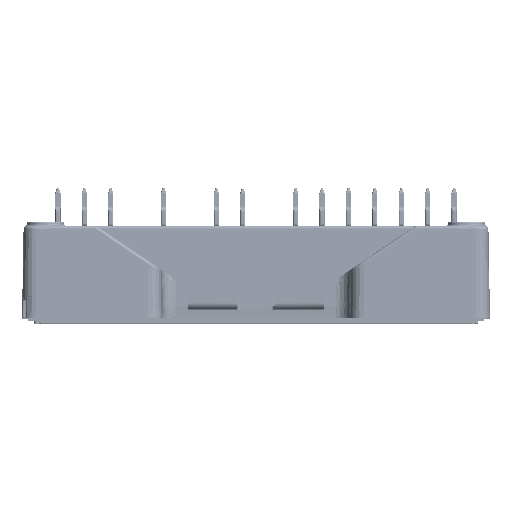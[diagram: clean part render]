
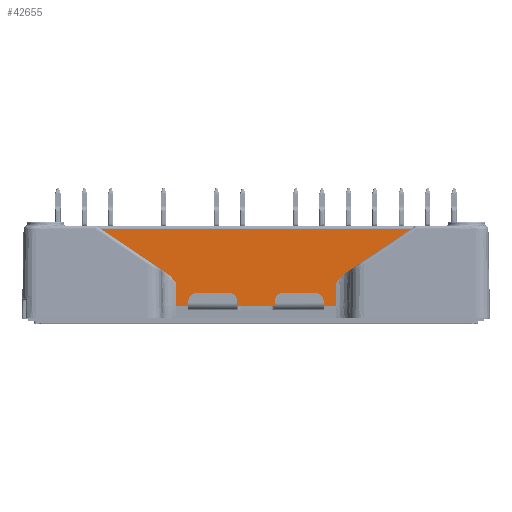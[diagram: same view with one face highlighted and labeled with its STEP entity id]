
A CAD part, top view. The second image highlights one B-rep face of the part: STEP entity #42655.
In plain terms, the highlighted planar face has unit normal (0, 0.018, 1).
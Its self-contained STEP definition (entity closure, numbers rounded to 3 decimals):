
#1382 = VERTEX_POINT ( 'NONE', #117364 ) ;
#4895 = LINE ( 'NONE', #63635, #51766 ) ;
#13503 = DIRECTION ( 'NONE',  ( -1., 0., 0. ) ) ;
#13664 = CARTESIAN_POINT ( 'NONE',  ( -10.129, 5.456, 20.416 ) ) ;
#14374 = CARTESIAN_POINT ( 'NONE',  ( 10.11, 5.432, 20.416 ) ) ;
#14709 = DIRECTION ( 'NONE',  ( 0., 0.017, 1. ) ) ;
#15096 = VERTEX_POINT ( 'NONE', #146085 ) ;
#17450 = CARTESIAN_POINT ( 'NONE',  ( -18.767, 11.437, 20.311 ) ) ;
#19825 = CARTESIAN_POINT ( 'NONE',  ( -18.767, 11.437, 20.311 ) ) ;
#21517 = ORIENTED_EDGE ( 'NONE', *, *, #70705, .T. ) ;
#24234 = CARTESIAN_POINT ( 'NONE',  ( 18.767, 11.437, 20.311 ) ) ;
#24279 = CARTESIAN_POINT ( 'NONE',  ( -10.288, 5.639, 20.413 ) ) ;
#24987 = CARTESIAN_POINT ( 'NONE',  ( 9.65, 4.812, 20.427 ) ) ;
#25622 = VECTOR ( 'NONE', #13503, 1000. ) ;
#28775 = DIRECTION ( 'NONE',  ( 1., 0., 0. ) ) ;
#28786 = CARTESIAN_POINT ( 'NONE',  ( 10.105, 5.426, 20.416 ) ) ;
#38474 = DIRECTION ( 'NONE',  ( 0., 1., -0.017 ) ) ;
#40630 = CARTESIAN_POINT ( 'NONE',  ( -10.455, 5.81, 20.41 ) ) ;
#40992 = CARTESIAN_POINT ( 'NONE',  ( -11.35, 2.05, 20.475 ) ) ;
#41138 = VERTEX_POINT ( 'NONE', #188816 ) ;
#42655 = ADVANCED_FACE ( 'NONE', ( #162206 ), #118777, .T. ) ;
#42774 = AXIS2_PLACEMENT_3D ( 'NONE', #190178, #14709, #72502 ) ;
#43650 = EDGE_CURVE ( 'NONE', #1382, #103298, #95992, .T. ) ;
#46899 = ORIENTED_EDGE ( 'NONE', *, *, #56275, .T. ) ;
#48021 = CARTESIAN_POINT ( 'NONE',  ( -10.679, 5.981, 20.407 ) ) ;
#48386 = CARTESIAN_POINT ( 'NONE',  ( -9.65, 499000., -8689.566 ) ) ;
#51037 = VERTEX_POINT ( 'NONE', #24234 ) ;
#51766 = VECTOR ( 'NONE', #38474, 1000. ) ;
#52273 = CARTESIAN_POINT ( 'NONE',  ( -10.679, 5.981, 20.407 ) ) ;
#56275 = EDGE_CURVE ( 'NONE', #51037, #74429, #153346, .T. ) ;
#58184 = ORIENTED_EDGE ( 'NONE', *, *, #43650, .T. ) ;
#59616 = CARTESIAN_POINT ( 'NONE',  ( -11.35, 2.05, 20.475 ) ) ;
#59844 = VERTEX_POINT ( 'NONE', #77705 ) ;
#61565 = EDGE_CURVE ( 'NONE', #89018, #126013, #136141, .T. ) ;
#63635 = CARTESIAN_POINT ( 'NONE',  ( 9.65, 499000., -8689.566 ) ) ;
#69292 = CARTESIAN_POINT ( 'NONE',  ( 10.113, 5.437, 20.416 ) ) ;
#70705 = EDGE_CURVE ( 'NONE', #15096, #1382, #105828, .T. ) ;
#72502 = DIRECTION ( 'NONE',  ( 1., 0., 0. ) ) ;
#73277 = LINE ( 'NONE', #120502, #105490 ) ;
#73647 = EDGE_CURVE ( 'NONE', #175593, #89018, #188877, .T. ) ;
#74429 = VERTEX_POINT ( 'NONE', #19825 ) ;
#77705 = CARTESIAN_POINT ( 'NONE',  ( 9.65, 4.812, 20.427 ) ) ;
#80025 = ORIENTED_EDGE ( 'NONE', *, *, #73647, .T. ) ;
#83765 = CARTESIAN_POINT ( 'NONE',  ( 10.092, 5.41, 20.417 ) ) ;
#84971 = CARTESIAN_POINT ( 'NONE',  ( -10.591, 5.922, 20.408 ) ) ;
#85666 = CARTESIAN_POINT ( 'NONE',  ( 10.01, 5.306, 20.418 ) ) ;
#85825 = EDGE_CURVE ( 'NONE', #126013, #15096, #88512, .T. ) ;
#86644 = VECTOR ( 'NONE', #91333, 1000. ) ;
#87590 = CARTESIAN_POINT ( 'NONE',  ( 10.114, 5.437, 20.416 ) ) ;
#88296 = EDGE_LOOP ( 'NONE', ( #181126, #80025, #98456, #174996, #21517, #58184, #168279, #148804, #130315, #46899 ) ) ;
#88512 = LINE ( 'NONE', #59616, #101647 ) ;
#89018 = VERTEX_POINT ( 'NONE', #166049 ) ;
#89252 = EDGE_CURVE ( 'NONE', #41138, #51037, #73277, .T. ) ;
#90659 = LINE ( 'NONE', #17450, #121855 ) ;
#91333 = DIRECTION ( 'NONE',  ( 1., 0., 0. ) ) ;
#95992 = LINE ( 'NONE', #40992, #141866 ) ;
#98456 = ORIENTED_EDGE ( 'NONE', *, *, #61565, .T. ) ;
#98849 = DIRECTION ( 'NONE',  ( 1., 0., 0. ) ) ;
#99459 = CARTESIAN_POINT ( 'NONE',  ( -10.203, 5.543, 20.414 ) ) ;
#100407 = CARTESIAN_POINT ( 'NONE',  ( -9.65, 4.812, 20.427 ) ) ;
#101647 = VECTOR ( 'NONE', #28775, 1000. ) ;
#103298 = VERTEX_POINT ( 'NONE', #158568 ) ;
#105490 = VECTOR ( 'NONE', #179341, 1000. ) ;
#105828 = LINE ( 'NONE', #135710, #86644 ) ;
#113674 = CARTESIAN_POINT ( 'NONE',  ( 10.066, 5.378, 20.417 ) ) ;
#115580 = CARTESIAN_POINT ( 'NONE',  ( 9.884, 5.139, 20.421 ) ) ;
#116770 = CARTESIAN_POINT ( 'NONE',  ( -10.007, 5.307, 20.418 ) ) ;
#117364 = CARTESIAN_POINT ( 'NONE',  ( 8.2, 2.05, 20.475 ) ) ;
#117486 = CARTESIAN_POINT ( 'NONE',  ( 10.315, 5.682, 20.412 ) ) ;
#118777 = PLANE ( 'NONE',  #42774 ) ;
#120502 = CARTESIAN_POINT ( 'NONE',  ( 10.679, 5.981, 20.407 ) ) ;
#120619 = EDGE_CURVE ( 'NONE', #59844, #41138, #146000, .T. ) ;
#121515 = DIRECTION ( 'NONE',  ( 0.829, -0.559, 0.01 ) ) ;
#121855 = VECTOR ( 'NONE', #121515, 1000. ) ;
#126013 = VERTEX_POINT ( 'NONE', #129518 ) ;
#127656 = EDGE_CURVE ( 'NONE', #74429, #175593, #90659, .T. ) ;
#129087 = CARTESIAN_POINT ( 'NONE',  ( 10.502, 5.862, 20.409 ) ) ;
#129518 = CARTESIAN_POINT ( 'NONE',  ( -9.65, 2.05, 20.475 ) ) ;
#130315 = ORIENTED_EDGE ( 'NONE', *, *, #89252, .T. ) ;
#135710 = CARTESIAN_POINT ( 'NONE',  ( -11.35, 2.05, 20.475 ) ) ;
#136141 = LINE ( 'NONE', #48386, #154300 ) ;
#139855 = EDGE_CURVE ( 'NONE', #103298, #59844, #4895, .T. ) ;
#141866 = VECTOR ( 'NONE', #98849, 1000. ) ;
#142583 = CARTESIAN_POINT ( 'NONE',  ( 10.679, 5.981, 20.407 ) ) ;
#145689 = CARTESIAN_POINT ( 'NONE',  ( -9.851, 5.098, 20.422 ) ) ;
#146000 = B_SPLINE_CURVE_WITH_KNOTS ( 'NONE', 3,
 ( #24987, #157071, #115580, #85666, #113674, #83765, #28786, #14374, #69292, #87590, #117486, #129087, #142583 ),
 .UNSPECIFIED., .F., .F.,
 ( 4, 1, 1, 1, 1, 1, 2, 2, 4 ),
 ( 0., 0.25, 0.375, 0.438, 0.469, 0.484, 0.492, 0.5, 1. ),
 .UNSPECIFIED. ) ;
#146085 = CARTESIAN_POINT ( 'NONE',  ( -8.2, 2.05, 20.475 ) ) ;
#148804 = ORIENTED_EDGE ( 'NONE', *, *, #120619, .T. ) ;
#153346 = LINE ( 'NONE', #188036, #25622 ) ;
#154300 = VECTOR ( 'NONE', #162732, 1000. ) ;
#157071 = CARTESIAN_POINT ( 'NONE',  ( 9.75, 4.954, 20.425 ) ) ;
#158568 = CARTESIAN_POINT ( 'NONE',  ( 9.65, 2.05, 20.475 ) ) ;
#162120 = CARTESIAN_POINT ( 'NONE',  ( -10.123, 5.449, 20.416 ) ) ;
#162206 = FACE_OUTER_BOUND ( 'NONE', #88296, .T. ) ;
#162732 = DIRECTION ( 'NONE',  ( 0., -1., 0.017 ) ) ;
#166049 = CARTESIAN_POINT ( 'NONE',  ( -9.65, 4.812, 20.427 ) ) ;
#168279 = ORIENTED_EDGE ( 'NONE', *, *, #139855, .T. ) ;
#169934 = CARTESIAN_POINT ( 'NONE',  ( -10.16, 5.493, 20.415 ) ) ;
#170893 = CARTESIAN_POINT ( 'NONE',  ( -10.139, 5.467, 20.416 ) ) ;
#174996 = ORIENTED_EDGE ( 'NONE', *, *, #85825, .T. ) ;
#175593 = VERTEX_POINT ( 'NONE', #48021 ) ;
#176586 = CARTESIAN_POINT ( 'NONE',  ( -10.119, 5.443, 20.416 ) ) ;
#179341 = DIRECTION ( 'NONE',  ( 0.829, 0.559, -0.01 ) ) ;
#181126 = ORIENTED_EDGE ( 'NONE', *, *, #127656, .T. ) ;
#188036 = CARTESIAN_POINT ( 'NONE',  ( -11.35, 11.437, 20.311 ) ) ;
#188816 = CARTESIAN_POINT ( 'NONE',  ( 10.679, 5.981, 20.407 ) ) ;
#188877 = B_SPLINE_CURVE_WITH_KNOTS ( 'NONE', 3,
 ( #52273, #84971, #40630, #24279, #99459, #169934, #170893, #13664, #162120, #176586, #116770, #145689, #100407 ),
 .UNSPECIFIED., .F., .F.,
 ( 4, 1, 1, 1, 1, 1, 2, 2, 4 ),
 ( 0., 0.25, 0.375, 0.437, 0.469, 0.484, 0.492, 0.5, 1. ),
 .UNSPECIFIED. ) ;
#190178 = CARTESIAN_POINT ( 'NONE',  ( -11.35, 0.63, 20.5 ) ) ;
